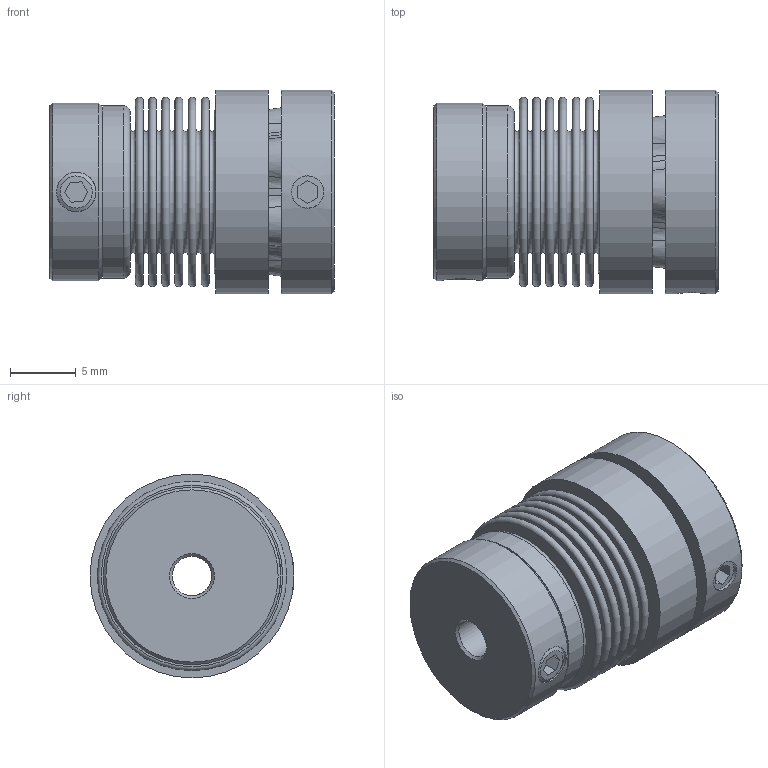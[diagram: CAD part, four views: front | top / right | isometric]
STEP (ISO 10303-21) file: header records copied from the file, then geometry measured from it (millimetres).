
FILE_DESCRIPTION( ( 'KBE1/14 - N7H8 - N14H7 - 98 Sh' ), '1' );
FILE_NAME( 'K:/Konstruktion/Fertigungszeichnungen/Metallbalgkupplung/KB1P/5-10/KB1P-5-22.stp', '14.12.2015', ( 'KBK-Antriebstechnik' ), ( 'KBK-Antriebstechnik' ), 'PSStep 16.0.42', 'Solid Edge St6', ' ' );
FILE_SCHEMA( ( 'AUTOMOTIVE_DESIGN { 1 0 10303 214 1 1 1 1 }' ) );
Length unit declared in the file: millimetre
Products named in the file (6): Assem1; Stecknabe KB1P-10; Balgaufnahme KB2P-10_für Step; MN10_Standard_2; BK5_Standard_0; Socket Set Screw Cup Point_DIN_DIN 916 - M3 x 4-N_8
Assembly tree (6 placements, depth 2):
  Assem1
    Stecknabe KB1P-10
    Balgaufnahme KB2P-10_für Step
    MN10_Standard_2
    BK5_Standard_0
    Socket Set Screw Cup Point_DIN_DIN 916 - M3 x 4-N_8  x2
Bounding box: 21.6 x 15.5 x 15.5 mm (x, y, z)
Volume: 2465.8 mm3; surface area: 5219.2 mm2
Topology: 6 solids, 6 shells, 176 faces, 376 edges, 239 vertices
Faces by surface type: cone 79, plane 53, torus 30, cylinder 14
Full cylindrical faces by diameter (mm): 2.459 x1, 3 x5, 12.9 x3, 13.1 x2, 13.5 x1, 15.5 x2
Entity records: 5724 total; most frequent: CARTESIAN_POINT 823, DIRECTION 812, ORIENTED_EDGE 566, AXIS2_PLACEMENT_3D 367, EDGE_CURVE 283, EDGE_LOOP 258, VERTEX_POINT 224, FACE_OUTER_BOUND 207
